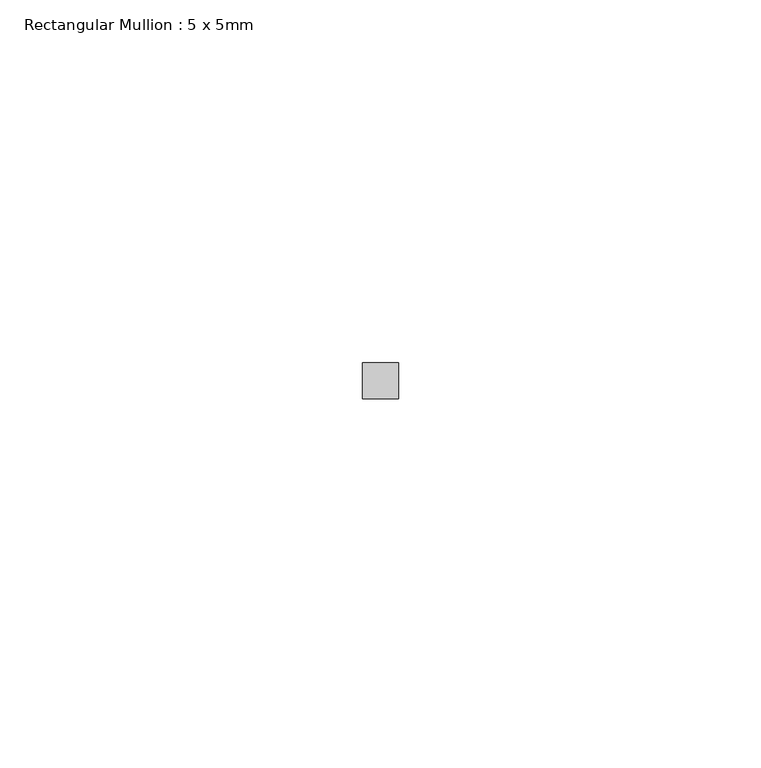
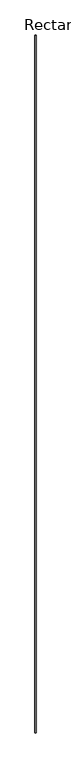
"""IFC4 building model written with IfcOpenShell, lengths in millimetres: member geometry, Rectangular Mullion : 5 x 5mm."""

from ifc_helpers import new_model, si_unit, frame, origin, place, context, project, spatial, polyline, outline, extrude, source, transform, mapped, element, save


def rectangular_mullion_5_x_5mm_49b36daa(model_context):
    return source(origin(), model_context, "Body", "SweptSolid", [
        extrude(outline(polyline([(0.0, 2.5), (0.0, -2.5), (-5.0, -2.5), (-5.0, 2.5), (0.0, 2.5)])), frame((0.0, 0.0, -5208.580519), z_axis=(0.0, 0.0, 1.0), x_axis=(1.0, 0.0, 0.0)), (0.0, 0.0, 1.0), 5208.580519),
    ])


if __name__ == "__main__":
    model = new_model("IFC4")
    model_context = context("Model", 3, world=origin())
    ifc_project = project(units=[si_unit("LENGTHUNIT", "METRE", prefix="MILLI")], contexts=[model_context])
    site = spatial("IfcSite", under=ifc_project)
    building = spatial("IfcBuilding", under=site)
    placement = place(None, origin())
    rectangular_mullion_5_x_5mm_shape = rectangular_mullion_5_x_5mm_49b36daa(model_context)
    element("IfcMember", 1, ObjectType="Rectangular Mullion : 5 x 5mm", at=placement, inside=building, context=model_context, shape_type="MappedRepresentation", body=[
        mapped(rectangular_mullion_5_x_5mm_shape, transform((0.0, 0.0, 0.0), x_axis=(1.0, 0.0, 0.0), y_axis=(0.0, 1.0, 0.0), z_axis=(0.0, 0.0, 1.0))),
    ])
    save(model, "model.ifc")
